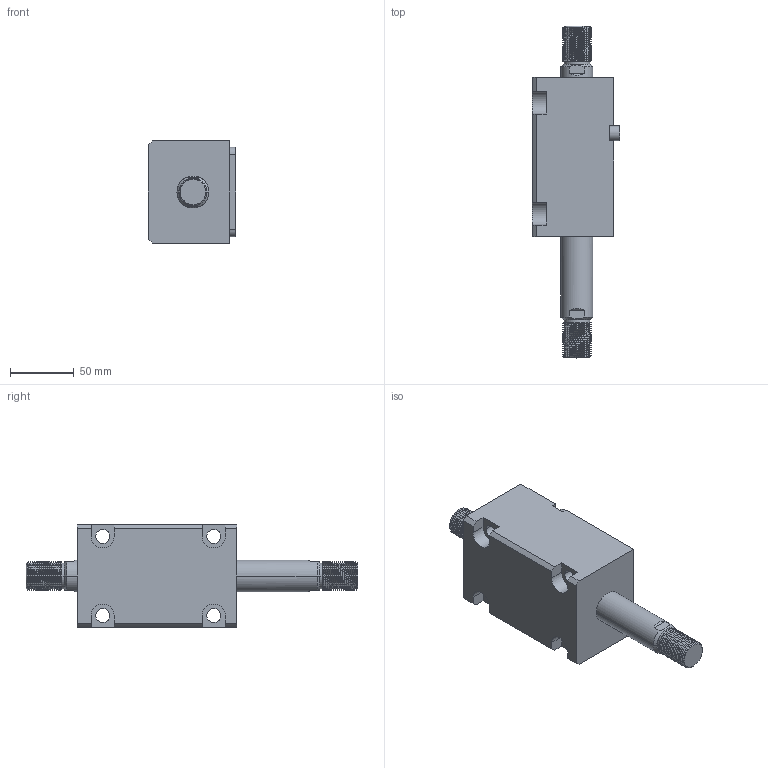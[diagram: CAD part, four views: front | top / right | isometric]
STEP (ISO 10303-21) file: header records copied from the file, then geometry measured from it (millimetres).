
FILE_DESCRIPTION (( 'STEP AP214' ), '1' );
FILE_NAME ('chtb-lwm40x55w_asm.STEP', '2018-05-31T00:44:34', ( 'Windows' ), ( 'Microsoft' ), 'SwSTEP 2.0', 'SolidWorks 2015', '' );
FILE_SCHEMA (( 'AUTOMOTIVE_DESIGN' ));
Length unit declared in the file: millimetre
Products named in the file (5): CHTB-SD40QG; CHTB-LWM40X55NBT; CHTB-LA40PJ; chtb-lwm40x55w_asm; CHTB-SW40X55NHSG
Assembly tree (4 placements, depth 2):
  chtb-lwm40x55w_asm
    CHTB-LA40PJ
    CHTB-LWM40X55NBT
    CHTB-SD40QG
    CHTB-SW40X55NHSG
Bounding box: 68.5 x 260 x 80 mm (x, y, z)
Volume: 621943.6 mm3; surface area: 107698.4 mm2
Topology: 4 solids, 4 shells, 252 faces, 699 edges, 465 vertices
Faces by surface type: cylinder 152, plane 57, bspline 18, cone 13, torus 12
Entity records: 17373 total; most frequent: CARTESIAN_POINT 11260, ORIENTED_EDGE 1386, DIRECTION 1092, EDGE_CURVE 693, VERTEX_POINT 465, AXIS2_PLACEMENT_3D 419, EDGE_LOOP 284, VECTOR 254
